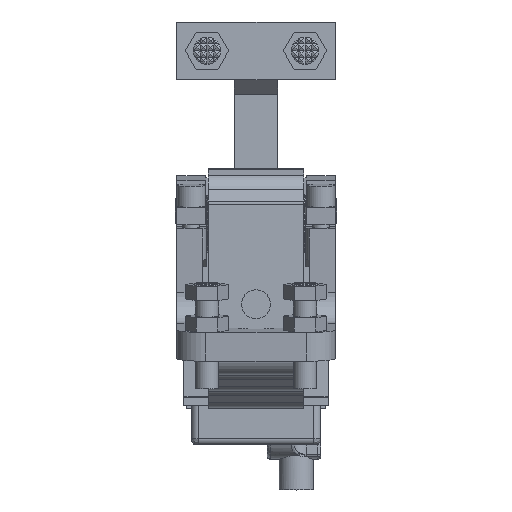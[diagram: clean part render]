
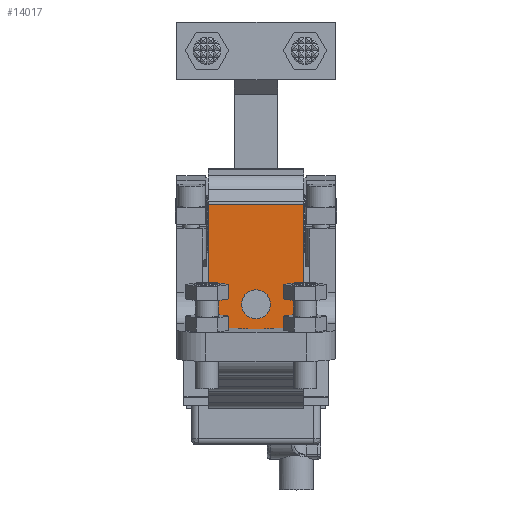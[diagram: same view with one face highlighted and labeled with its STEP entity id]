
A CAD part, top view. The second image highlights one B-rep face of the part: STEP entity #14017.
In plain terms, the highlighted planar face has unit normal (0, 0, 1).
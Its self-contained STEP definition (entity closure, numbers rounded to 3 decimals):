
#394=FACE_BOUND('',#2391,.T.);
#395=FACE_BOUND('',#2392,.T.);
#697=CIRCLE('',#14937,5.);
#2391=EDGE_LOOP('',(#10482));
#2392=EDGE_LOOP('',(#10483,#10484,#10485,#10486));
#3462=LINE('',#21492,#4792);
#3475=LINE('',#21542,#4805);
#3534=LINE('',#21685,#4864);
#3544=LINE('',#21706,#4874);
#4792=VECTOR('',#17291,48.563);
#4805=VECTOR('',#17332,48.563);
#4864=VECTOR('',#17471,33.);
#4874=VECTOR('',#17503,33.);
#6102=VERTEX_POINT('',#21032);
#6257=VERTEX_POINT('',#21489);
#6258=VERTEX_POINT('',#21491);
#6280=VERTEX_POINT('',#21539);
#6281=VERTEX_POINT('',#21541);
#7488=EDGE_CURVE('',#6102,#6102,#697,.T.);
#7713=EDGE_CURVE('',#6258,#6257,#3462,.T.);
#7738=EDGE_CURVE('',#6281,#6280,#3475,.T.);
#7808=EDGE_CURVE('',#6280,#6258,#3534,.T.);
#7818=EDGE_CURVE('',#6281,#6257,#3544,.T.);
#10482=ORIENTED_EDGE('',*,*,#7488,.T.);
#10483=ORIENTED_EDGE('',*,*,#7738,.T.);
#10484=ORIENTED_EDGE('',*,*,#7808,.T.);
#10485=ORIENTED_EDGE('',*,*,#7713,.T.);
#10486=ORIENTED_EDGE('',*,*,#7818,.F.);
#13330=PLANE('',#15165);
#14017=ADVANCED_FACE('',(#394,#395),#13330,.T.);
#14937=AXIS2_PLACEMENT_3D('',#21033,#16824,#16825);
#15165=AXIS2_PLACEMENT_3D('',#21705,#17501,#17502);
#16824=DIRECTION('center_axis',(0.,0.,-1.));
#16825=DIRECTION('ref_axis',(0.,-1.,0.));
#17291=DIRECTION('',(0.,-1.,0.));
#17332=DIRECTION('',(0.,1.,0.));
#17471=DIRECTION('',(-1.,0.,0.));
#17501=DIRECTION('center_axis',(0.,0.,1.));
#17502=DIRECTION('ref_axis',(0.,1.,0.));
#17503=DIRECTION('',(-1.,0.,0.));
#21032=CARTESIAN_POINT('',(0.,-23.,44.));
#21033=CARTESIAN_POINT('Origin',(0.,-28.,44.));
#21489=CARTESIAN_POINT('',(-16.5,-42.031,44.));
#21491=CARTESIAN_POINT('',(-16.5,6.531,44.));
#21492=CARTESIAN_POINT('',(-16.5,-21.016,44.));
#21539=CARTESIAN_POINT('',(16.5,6.531,44.));
#21541=CARTESIAN_POINT('',(16.5,-42.031,44.));
#21542=CARTESIAN_POINT('',(16.5,-21.016,44.));
#21685=CARTESIAN_POINT('',(0.,6.531,44.));
#21705=CARTESIAN_POINT('Origin',(0.,-42.031,44.));
#21706=CARTESIAN_POINT('',(0.,-42.031,44.));
